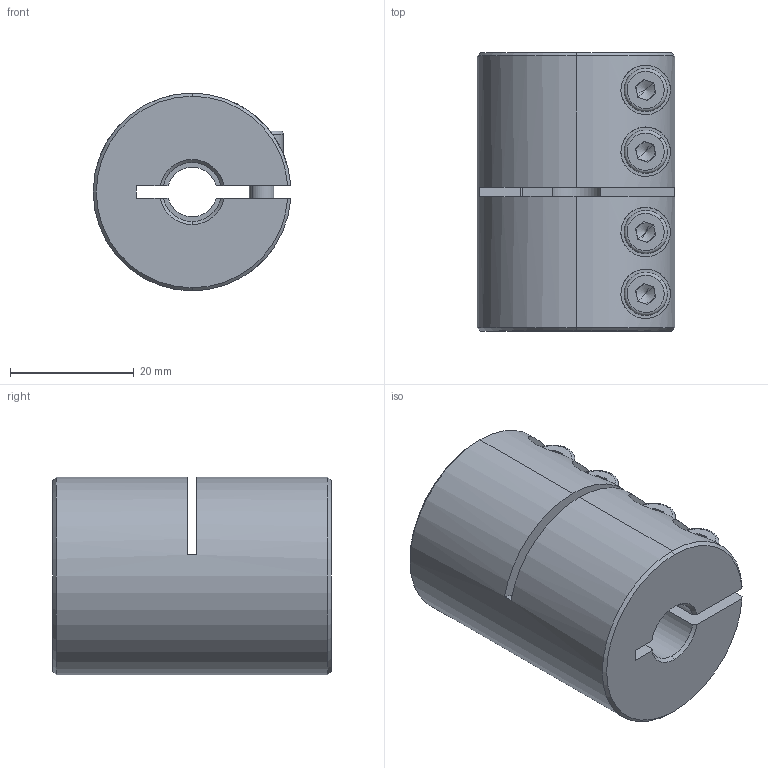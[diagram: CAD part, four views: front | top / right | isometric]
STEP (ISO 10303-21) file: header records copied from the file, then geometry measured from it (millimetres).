
FILE_DESCRIPTION (( 'STEP AP214' ), '1' );
FILE_NAME ('LL-B-D32L45-8-9.525½¨Ä£.STEP', '2022-07-21T07:00:35', ( '' ), ( '' ), 'SwSTEP 2.0', 'SolidWorks 2022', '' );
FILE_SCHEMA (( 'AUTOMOTIVE_DESIGN' ));
Length unit declared in the file: millimetre
Products named in the file (1): LL-B-D32L45-8-9.525膘耀
Bounding box: 31.97 x 45 x 32 mm (x, y, z)
Volume: 30782.7 mm3; surface area: 10759.9 mm2
Topology: 1 solids, 1 shells, 193 faces, 492 edges, 309 vertices
Faces by surface type: plane 88, cylinder 77, cone 20, torus 8
Entity records: 6357 total; most frequent: CARTESIAN_POINT 1583, DIRECTION 1037, ORIENTED_EDGE 968, EDGE_CURVE 484, AXIS2_PLACEMENT_3D 403, VERTEX_POINT 309, LINE 231, VECTOR 231
